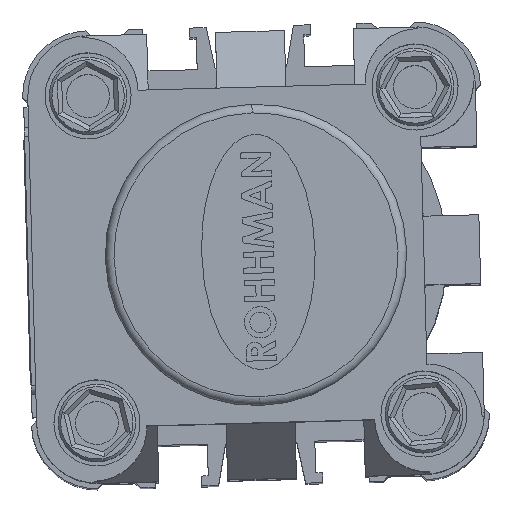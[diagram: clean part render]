
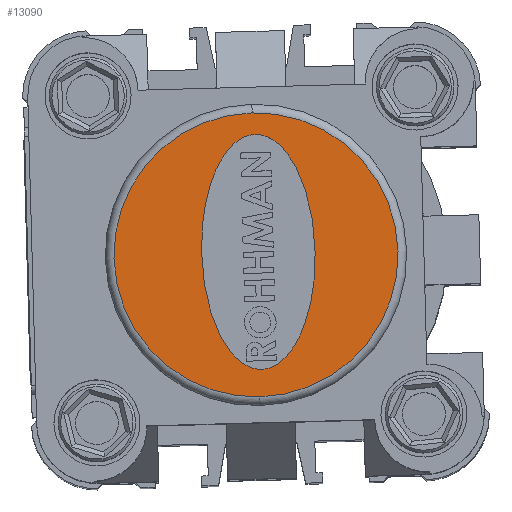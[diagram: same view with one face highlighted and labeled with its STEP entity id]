
A CAD part, top view. The second image highlights one B-rep face of the part: STEP entity #13090.
In plain terms, the highlighted planar face has unit normal (0, 0, 1) as drawn and (0, 0, -1) by its records, which use the part's own axes.
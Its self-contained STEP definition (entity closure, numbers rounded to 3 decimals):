
#361 = AXIS2_PLACEMENT_3D ( 'NONE', #4404, #19208, #9371 ) ;
#1782 = DIRECTION ( 'NONE',  ( 0., 0., -1. ) ) ;
#2315 = VERTEX_POINT ( 'NONE', #8729 ) ;
#2788 = ORIENTED_EDGE ( 'NONE', *, *, #25696, .T. ) ;
#2977 = CIRCLE ( 'NONE', #361, 16.5 ) ;
#3218 = FACE_OUTER_BOUND ( 'NONE', #28450, .T. ) ;
#3616 = CARTESIAN_POINT ( 'NONE',  ( 12.017, 12.525, -4. ) ) ;
#3850 = CARTESIAN_POINT ( 'NONE',  ( 39.297, 25.719, -4. ) ) ;
#4404 = CARTESIAN_POINT ( 'NONE',  ( 26., 26., -4. ) ) ;
#6020 = CARTESIAN_POINT ( 'NONE',  ( 12.017, 25.719, -4. ) ) ;
#8017 = DIRECTION ( 'NONE',  ( -1., 0., 0. ) ) ;
#8342 = FACE_BOUND ( 'NONE', #23060, .T. ) ;
#8729 = CARTESIAN_POINT ( 'NONE',  ( 9.5, 26., -4. ) ) ;
#9371 = DIRECTION ( 'NONE',  ( -1., 0., 0. ) ) ;
#11713 = CARTESIAN_POINT ( 'NONE',  ( 26., 26., -4. ) ) ;
#12026 = AXIS2_PLACEMENT_3D ( 'NONE', #18643, #20995, #8017 ) ;
#13090 = ADVANCED_FACE ( 'NONE', ( #8342, #3218 ), #13645, .T. ) ;
#13210 = VERTEX_POINT ( 'NONE', #6020 ) ;
#13645 = PLANE ( 'NONE',  #12026 ) ;
#13812 =( BOUNDED_CURVE ( )  B_SPLINE_CURVE ( 3, ( #16222, #24063, #3616, #18878 ),
 .UNSPECIFIED., .F., .F. ) 
 B_SPLINE_CURVE_WITH_KNOTS ( ( 4, 4 ),
 ( 0., 3.142 ),
 .UNSPECIFIED. ) 
 CURVE ( )  GEOMETRIC_REPRESENTATION_ITEM ( )  RATIONAL_B_SPLINE_CURVE ( ( 1., 0.333, 0.333, 1. ) ) 
 REPRESENTATION_ITEM ( '' )  );
#14010 = AXIS2_PLACEMENT_3D ( 'NONE', #11713, #1782, #14524 ) ;
#14524 = DIRECTION ( 'NONE',  ( -1., 0., 0. ) ) ;
#16222 = CARTESIAN_POINT ( 'NONE',  ( 39.297, 25.719, -4. ) ) ;
#17064 = EDGE_CURVE ( 'NONE', #27748, #13210, #13812, .T. ) ;
#18643 = CARTESIAN_POINT ( 'NONE',  ( 26., 26., -4. ) ) ;
#18698 = VERTEX_POINT ( 'NONE', #26655 ) ;
#18878 = CARTESIAN_POINT ( 'NONE',  ( 12.017, 25.719, -4. ) ) ;
#19208 = DIRECTION ( 'NONE',  ( 0., 0., -1. ) ) ;
#19226 = ORIENTED_EDGE ( 'NONE', *, *, #25896, .F. ) ;
#20995 = DIRECTION ( 'NONE',  ( 0., 0., -1. ) ) ;
#21137 = CARTESIAN_POINT ( 'NONE',  ( 12.017, 25.719, -4. ) ) ;
#21303 = CARTESIAN_POINT ( 'NONE',  ( 39.297, 38.913, -4. ) ) ;
#21638 = CARTESIAN_POINT ( 'NONE',  ( 12.017, 38.913, -4. ) ) ;
#23060 = EDGE_LOOP ( 'NONE', ( #28836, #19226 ) ) ;
#24063 = CARTESIAN_POINT ( 'NONE',  ( 39.297, 12.525, -4. ) ) ;
#25696 = EDGE_CURVE ( 'NONE', #18698, #2315, #2977, .T. ) ;
#25896 = EDGE_CURVE ( 'NONE', #13210, #27748, #27457, .T. ) ;
#26655 = CARTESIAN_POINT ( 'NONE',  ( 42.5, 26., -4. ) ) ;
#27457 =( BOUNDED_CURVE ( )  B_SPLINE_CURVE ( 3, ( #21137, #21638, #21303, #3850 ),
 .UNSPECIFIED., .F., .F. ) 
 B_SPLINE_CURVE_WITH_KNOTS ( ( 4, 4 ),
 ( 3.142, 6.283 ),
 .UNSPECIFIED. ) 
 CURVE ( )  GEOMETRIC_REPRESENTATION_ITEM ( )  RATIONAL_B_SPLINE_CURVE ( ( 1., 0.333, 0.333, 1. ) ) 
 REPRESENTATION_ITEM ( '' )  );
#27748 = VERTEX_POINT ( 'NONE', #29225 ) ;
#28450 = EDGE_LOOP ( 'NONE', ( #30495, #2788 ) ) ;
#28836 = ORIENTED_EDGE ( 'NONE', *, *, #17064, .F. ) ;
#29225 = CARTESIAN_POINT ( 'NONE',  ( 39.297, 25.719, -4. ) ) ;
#30495 = ORIENTED_EDGE ( 'NONE', *, *, #32024, .T. ) ;
#31610 = CIRCLE ( 'NONE', #14010, 16.5 ) ;
#32024 = EDGE_CURVE ( 'NONE', #2315, #18698, #31610, .T. ) ;
